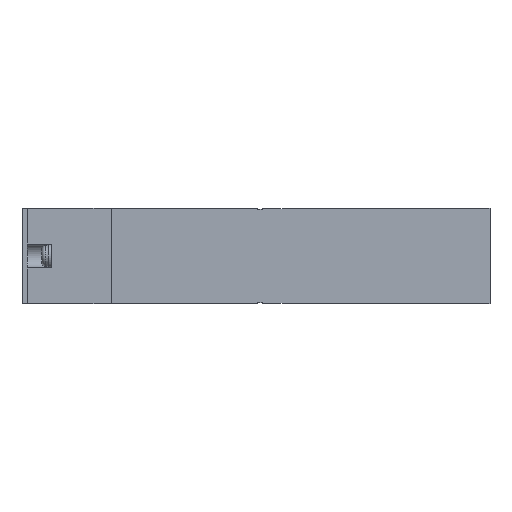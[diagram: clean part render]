
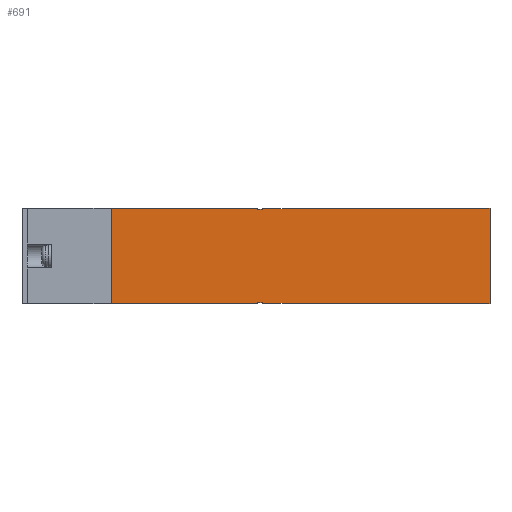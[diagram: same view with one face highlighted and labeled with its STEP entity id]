
A CAD part, front view. The second image highlights one B-rep face of the part: STEP entity #691.
In plain terms, the highlighted planar face has unit normal (0, -1, 0).
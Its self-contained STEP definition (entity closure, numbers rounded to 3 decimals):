
#691=ADVANCED_FACE('',(#1512),#1513,.F.);
#1512=FACE_OUTER_BOUND('',#2371,.T.);
#1513=PLANE('',#2372);
#2371=EDGE_LOOP('',(#5402,#5403,#5404,#5405,#5406,#5407,#5408,#5409,#5410,#5411,#5412,#5413,#5414,#5415,#5416,#5417,#5418,#5419,#5420,#5421,#5422,#5423,#5424,#5425));
#2372=AXIS2_PLACEMENT_3D('',#5426,#5427,#5428);
#5402=ORIENTED_EDGE('',*,*,#6527,.F.);
#5403=ORIENTED_EDGE('',*,*,#6509,.T.);
#5404=ORIENTED_EDGE('',*,*,#6545,.T.);
#5405=ORIENTED_EDGE('',*,*,#6490,.F.);
#5406=ORIENTED_EDGE('',*,*,#6585,.F.);
#5407=ORIENTED_EDGE('',*,*,#6530,.T.);
#5408=ORIENTED_EDGE('',*,*,#6338,.F.);
#5409=ORIENTED_EDGE('',*,*,#6384,.T.);
#5410=ORIENTED_EDGE('',*,*,#6561,.F.);
#5411=ORIENTED_EDGE('',*,*,#6390,.T.);
#5412=ORIENTED_EDGE('',*,*,#6522,.T.);
#5413=ORIENTED_EDGE('',*,*,#6596,.T.);
#5414=ORIENTED_EDGE('',*,*,#6562,.T.);
#5415=ORIENTED_EDGE('',*,*,#6533,.F.);
#5416=ORIENTED_EDGE('',*,*,#6554,.T.);
#5417=ORIENTED_EDGE('',*,*,#6493,.F.);
#5418=ORIENTED_EDGE('',*,*,#6440,.T.);
#5419=ORIENTED_EDGE('',*,*,#6506,.T.);
#5420=ORIENTED_EDGE('',*,*,#6555,.T.);
#5421=ORIENTED_EDGE('',*,*,#6525,.T.);
#5422=ORIENTED_EDGE('',*,*,#6579,.T.);
#5423=ORIENTED_EDGE('',*,*,#6483,.F.);
#5424=ORIENTED_EDGE('',*,*,#6590,.F.);
#5425=ORIENTED_EDGE('',*,*,#6359,.F.);
#5426=CARTESIAN_POINT('',(18.6,0.0,10.0));
#5427=DIRECTION('',(-0.0,1.0,0.0));
#5428=DIRECTION('',(1.0,0.0,0.0));
#6338=EDGE_CURVE('',#7831,#7827,#7833,.T.);
#6359=EDGE_CURVE('',#7869,#7872,#7873,.T.);
#6384=EDGE_CURVE('',#7831,#7918,#7920,.T.);
#6390=EDGE_CURVE('',#7930,#7928,#7931,.T.);
#6440=EDGE_CURVE('',#8010,#8015,#8017,.T.);
#6483=EDGE_CURVE('',#8086,#8084,#8088,.T.);
#6490=EDGE_CURVE('',#8099,#8100,#8101,.T.);
#6493=EDGE_CURVE('',#8010,#8105,#8106,.T.);
#6506=EDGE_CURVE('',#8015,#8126,#8128,.T.);
#6509=EDGE_CURVE('',#8121,#8131,#8133,.T.);
#6522=EDGE_CURVE('',#7928,#8153,#8155,.T.);
#6525=EDGE_CURVE('',#8161,#8159,#8162,.T.);
#6527=EDGE_CURVE('',#8121,#7869,#8164,.T.);
#6530=EDGE_CURVE('',#8168,#7827,#8169,.T.);
#6533=EDGE_CURVE('',#8171,#8173,#8174,.T.);
#6545=EDGE_CURVE('',#8131,#8100,#8188,.T.);
#6554=EDGE_CURVE('',#8171,#8105,#8199,.T.);
#6555=EDGE_CURVE('',#8126,#8161,#8200,.T.);
#6561=EDGE_CURVE('',#7930,#7918,#8208,.T.);
#6562=EDGE_CURVE('',#8209,#8173,#8210,.T.);
#6579=EDGE_CURVE('',#8159,#8084,#8232,.T.);
#6585=EDGE_CURVE('',#8168,#8099,#8239,.T.);
#6590=EDGE_CURVE('',#7872,#8086,#8246,.T.);
#6596=EDGE_CURVE('',#8153,#8209,#8252,.T.);
#7827=VERTEX_POINT('',#10233);
#7831=VERTEX_POINT('',#10239);
#7833=LINE('',#10242,#10243);
#7869=VERTEX_POINT('',#10298);
#7872=VERTEX_POINT('',#10302);
#7873=LINE('',#10303,#10304);
#7918=VERTEX_POINT('',#10368);
#7920=LINE('',#10371,#10372);
#7928=VERTEX_POINT('',#10384);
#7930=VERTEX_POINT('',#10387);
#7931=LINE('',#10388,#10389);
#8010=VERTEX_POINT('',#10505);
#8015=VERTEX_POINT('',#10512);
#8017=LINE('',#10515,#10516);
#8084=VERTEX_POINT('',#10646);
#8086=VERTEX_POINT('',#10649);
#8088=LINE('',#10652,#10653);
#8099=VERTEX_POINT('',#10670);
#8100=VERTEX_POINT('',#10671);
#8101=LINE('',#10672,#10673);
#8105=VERTEX_POINT('',#10679);
#8106=LINE('',#10680,#10681);
#8121=VERTEX_POINT('',#10705);
#8126=VERTEX_POINT('',#10712);
#8128=LINE('',#10715,#10716);
#8131=VERTEX_POINT('',#10720);
#8133=LINE('',#10723,#10724);
#8153=VERTEX_POINT('',#10755);
#8155=LINE('',#10758,#10759);
#8159=VERTEX_POINT('',#10764);
#8161=VERTEX_POINT('',#10767);
#8162=LINE('',#10768,#10769);
#8164=LINE('',#10772,#10773);
#8168=VERTEX_POINT('',#10779);
#8169=LINE('',#10780,#10781);
#8171=VERTEX_POINT('',#10784);
#8173=VERTEX_POINT('',#10787);
#8174=LINE('',#10788,#10789);
#8188=LINE('',#10813,#10814);
#8199=LINE('',#10833,#10834);
#8200=LINE('',#10835,#10836);
#8208=LINE('',#10849,#10850);
#8209=VERTEX_POINT('',#10851);
#8210=LINE('',#10852,#10853);
#8232=LINE('',#10891,#10892);
#8239=LINE('',#10901,#10902);
#8246=LINE('',#10911,#10912);
#8252=LINE('',#10923,#10924);
#10233=CARTESIAN_POINT('',(44.1,0.0,10.0));
#10239=CARTESIAN_POINT('',(35.1,0.0,10.0));
#10242=CARTESIAN_POINT('',(18.6,0.0,10.0));
#10243=VECTOR('',#11911,1.0);
#10298=CARTESIAN_POINT('',(55.1,0.0,9.9));
#10302=CARTESIAN_POINT('',(55.1,0.0,10.0));
#10303=CARTESIAN_POINT('',(55.1,0.0,9.9));
#10304=VECTOR('',#11932,1.0);
#10368=CARTESIAN_POINT('',(35.1,0.0,9.9));
#10371=CARTESIAN_POINT('',(35.1,0.0,10.1));
#10372=VECTOR('',#11965,1.0);
#10384=CARTESIAN_POINT('',(18.6,0.0,-9.9));
#10387=CARTESIAN_POINT('',(18.6,0.0,9.9));
#10388=CARTESIAN_POINT('',(18.6,0.0,10.0));
#10389=VECTOR('',#11971,1.0);
#10505=CARTESIAN_POINT('',(49.1,0.0,-9.8));
#10512=CARTESIAN_POINT('',(50.1,0.0,-9.8));
#10515=CARTESIAN_POINT('',(18.6,0.0,-9.8));
#10516=VECTOR('',#12039,1.0);
#10646=CARTESIAN_POINT('',(97.6,0.0,-10.0));
#10649=CARTESIAN_POINT('',(97.6,0.0,10.0));
#10652=CARTESIAN_POINT('',(97.6,0.0,10.0));
#10653=VECTOR('',#12087,1.0);
#10670=CARTESIAN_POINT('',(49.1,0.0,9.9));
#10671=CARTESIAN_POINT('',(49.1,0.0,9.8));
#10672=CARTESIAN_POINT('',(49.1,0.0,10.0));
#10673=VECTOR('',#12094,1.0);
#10679=CARTESIAN_POINT('',(49.1,0.0,-9.9));
#10680=CARTESIAN_POINT('',(49.1,0.0,10.0));
#10681=VECTOR('',#12097,1.0);
#10705=CARTESIAN_POINT('',(50.1,0.0,9.9));
#10712=CARTESIAN_POINT('',(50.1,0.0,-9.9));
#10715=CARTESIAN_POINT('',(50.1,0.0,10.0));
#10716=VECTOR('',#12110,1.0);
#10720=CARTESIAN_POINT('',(50.1,0.0,9.8));
#10723=CARTESIAN_POINT('',(50.1,0.0,10.0));
#10724=VECTOR('',#12113,1.0);
#10755=CARTESIAN_POINT('',(35.1,0.0,-9.9));
#10758=CARTESIAN_POINT('',(18.6,0.0,-9.9));
#10759=VECTOR('',#12126,1.0);
#10764=CARTESIAN_POINT('',(55.1,0.0,-10.0));
#10767=CARTESIAN_POINT('',(55.1,0.0,-9.9));
#10768=CARTESIAN_POINT('',(55.1,0.0,-9.9));
#10769=VECTOR('',#12129,1.0);
#10772=CARTESIAN_POINT('',(44.1,0.0,9.9));
#10773=VECTOR('',#12131,1.0);
#10779=CARTESIAN_POINT('',(44.1,0.0,9.9));
#10780=CARTESIAN_POINT('',(44.1,0.0,9.9));
#10781=VECTOR('',#12134,1.0);
#10784=CARTESIAN_POINT('',(44.1,0.0,-9.9));
#10787=CARTESIAN_POINT('',(44.1,0.0,-10.0));
#10788=CARTESIAN_POINT('',(44.1,0.0,-9.9));
#10789=VECTOR('',#12137,1.0);
#10813=CARTESIAN_POINT('',(18.6,0.0,9.8));
#10814=VECTOR('',#12151,1.0);
#10833=CARTESIAN_POINT('',(44.1,0.0,-9.9));
#10834=VECTOR('',#12160,1.0);
#10835=CARTESIAN_POINT('',(44.1,0.0,-9.9));
#10836=VECTOR('',#12161,1.0);
#10849=CARTESIAN_POINT('',(18.6,0.0,9.9));
#10850=VECTOR('',#12167,1.0);
#10851=CARTESIAN_POINT('',(35.1,0.0,-10.0));
#10852=CARTESIAN_POINT('',(18.6,0.0,-10.0));
#10853=VECTOR('',#12168,1.0);
#10891=CARTESIAN_POINT('',(18.6,0.0,-10.0));
#10892=VECTOR('',#12185,1.0);
#10901=CARTESIAN_POINT('',(44.1,0.0,9.9));
#10902=VECTOR('',#12194,1.0);
#10911=CARTESIAN_POINT('',(18.6,0.0,10.0));
#10912=VECTOR('',#12203,1.0);
#10923=CARTESIAN_POINT('',(35.1,0.0,-9.9));
#10924=VECTOR('',#12209,1.0);
#11911=DIRECTION('',(1.0,0.0,0.0));
#11932=DIRECTION('',(0.0,0.0,1.0));
#11965=DIRECTION('',(0.0,0.0,-1.0));
#11971=DIRECTION('',(0.0,0.0,-1.0));
#12039=DIRECTION('',(1.0,0.0,0.0));
#12087=DIRECTION('',(0.0,0.0,-1.0));
#12094=DIRECTION('',(0.0,0.0,-1.0));
#12097=DIRECTION('',(0.0,0.0,-1.0));
#12110=DIRECTION('',(0.0,0.0,-1.0));
#12113=DIRECTION('',(0.0,0.0,-1.0));
#12126=DIRECTION('',(1.0,0.0,0.0));
#12129=DIRECTION('',(0.0,0.0,-1.0));
#12131=DIRECTION('',(1.0,0.0,0.0));
#12134=DIRECTION('',(0.0,0.0,1.0));
#12137=DIRECTION('',(0.0,0.0,-1.0));
#12151=DIRECTION('',(-1.0,0.0,0.0));
#12160=DIRECTION('',(1.0,0.0,0.0));
#12161=DIRECTION('',(1.0,0.0,0.0));
#12167=DIRECTION('',(1.0,0.0,0.0));
#12168=DIRECTION('',(1.0,0.0,0.0));
#12185=DIRECTION('',(1.0,0.0,0.0));
#12194=DIRECTION('',(1.0,0.0,0.0));
#12203=DIRECTION('',(1.0,0.0,0.0));
#12209=DIRECTION('',(0.0,0.0,-1.0));
